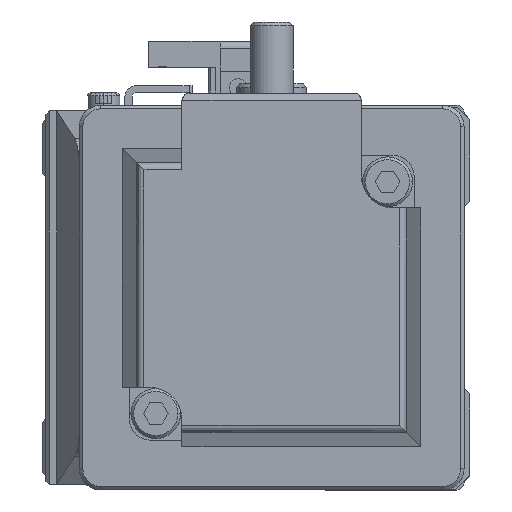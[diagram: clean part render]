
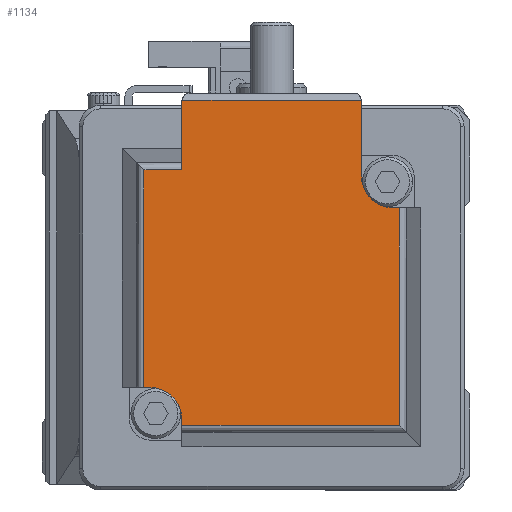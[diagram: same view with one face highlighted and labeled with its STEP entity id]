
A CAD part, left-side view. The second image highlights one B-rep face of the part: STEP entity #1134.
In plain terms, the highlighted planar face has unit normal (-1, 0, 0) as drawn and (0, 1, 0) by its records, which use the part's own axes.
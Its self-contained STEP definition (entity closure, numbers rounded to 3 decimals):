
#1134 = ADVANCED_FACE ( 'NONE', ( #12021 ), #10498, .F. ) ;
#1308 = CARTESIAN_POINT ( 'NONE',  ( -12.6, 100.6, -17.929 ) ) ;
#1461 = EDGE_CURVE ( 'NONE', #11873, #5944, #31729, .T. ) ;
#4011 = VERTEX_POINT ( 'NONE', #13089 ) ;
#4361 = CIRCLE ( 'NONE', #30564, 4.5 ) ;
#4514 = CARTESIAN_POINT ( 'NONE',  ( 12.6, 100.6, 17.929 ) ) ;
#4883 = DIRECTION ( 'NONE',  ( 0., -1., 0. ) ) ;
#5253 = DIRECTION ( 'NONE',  ( 1., 0., 0. ) ) ;
#5413 = EDGE_LOOP ( 'NONE', ( #22507, #31931, #13696, #17268, #14960, #31752, #34373, #24652, #16331, #8727, #9553, #16938 ) ) ;
#5452 = AXIS2_PLACEMENT_3D ( 'NONE', #10380, #4883, #16024 ) ;
#5850 = DIRECTION ( 'NONE',  ( 0., 1., 0. ) ) ;
#5944 = VERTEX_POINT ( 'NONE', #13970 ) ;
#6115 = VERTEX_POINT ( 'NONE', #4514 ) ;
#6201 = LINE ( 'NONE', #11561, #10031 ) ;
#6975 = VECTOR ( 'NONE', #23200, 1000. ) ;
#7044 = CARTESIAN_POINT ( 'NONE',  ( 17.929, 100.6, -17.929 ) ) ;
#7819 = DIRECTION ( 'NONE',  ( 0., 0., 1. ) ) ;
#8418 = EDGE_CURVE ( 'NONE', #6115, #8458, #6201, .T. ) ;
#8458 = VERTEX_POINT ( 'NONE', #16857 ) ;
#8727 = ORIENTED_EDGE ( 'NONE', *, *, #8418, .F. ) ;
#9153 = DIRECTION ( 'NONE',  ( 0., 0., 1. ) ) ;
#9272 = CARTESIAN_POINT ( 'NONE',  ( 17.929, 100.6, -12.6 ) ) ;
#9362 = EDGE_CURVE ( 'NONE', #33467, #23154, #22951, .T. ) ;
#9553 = ORIENTED_EDGE ( 'NONE', *, *, #21321, .F. ) ;
#9690 = CARTESIAN_POINT ( 'NONE',  ( 27.7, 100.6, 25. ) ) ;
#9945 = LINE ( 'NONE', #9272, #6975 ) ;
#10031 = VECTOR ( 'NONE', #33420, 1000. ) ;
#10380 = CARTESIAN_POINT ( 'NONE',  ( 17.929, 100.6, 25. ) ) ;
#10498 = PLANE ( 'NONE',  #5452 ) ;
#10540 = VECTOR ( 'NONE', #21483, 1000. ) ;
#10584 = CARTESIAN_POINT ( 'NONE',  ( 17.929, 100.6, 12.6 ) ) ;
#10624 = EDGE_CURVE ( 'NONE', #5944, #31644, #9945, .T. ) ;
#10778 = DIRECTION ( 'NONE',  ( 0., 0., -1. ) ) ;
#11216 = DIRECTION ( 'NONE',  ( 1., 0., 0. ) ) ;
#11561 = CARTESIAN_POINT ( 'NONE',  ( 17.929, 100.6, 17.929 ) ) ;
#11593 = AXIS2_PLACEMENT_3D ( 'NONE', #22262, #5850, #19652 ) ;
#11873 = VERTEX_POINT ( 'NONE', #7044 ) ;
#12021 = FACE_OUTER_BOUND ( 'NONE', #5413, .T. ) ;
#13089 = CARTESIAN_POINT ( 'NONE',  ( 27.7, 100.6, 12.6 ) ) ;
#13231 = CARTESIAN_POINT ( 'NONE',  ( -12.6, 100.6, -21. ) ) ;
#13407 = VECTOR ( 'NONE', #18760, 1000. ) ;
#13696 = ORIENTED_EDGE ( 'NONE', *, *, #10624, .F. ) ;
#13845 = CARTESIAN_POINT ( 'NONE',  ( 17.929, 100.6, -12.6 ) ) ;
#13970 = CARTESIAN_POINT ( 'NONE',  ( 17.929, 100.6, -12.6 ) ) ;
#14960 = ORIENTED_EDGE ( 'NONE', *, *, #29247, .F. ) ;
#15436 = VECTOR ( 'NONE', #5253, 1000. ) ;
#15649 = VECTOR ( 'NONE', #11216, 1000. ) ;
#16024 = DIRECTION ( 'NONE',  ( 0., 0., -1. ) ) ;
#16098 = CARTESIAN_POINT ( 'NONE',  ( -17.929, 100.6, -12.6 ) ) ;
#16140 = CARTESIAN_POINT ( 'NONE',  ( 17.929, 100.6, -17.929 ) ) ;
#16170 = CIRCLE ( 'NONE', #11593, 4.5 ) ;
#16331 = ORIENTED_EDGE ( 'NONE', *, *, #33767, .F. ) ;
#16857 = CARTESIAN_POINT ( 'NONE',  ( -17.929, 100.6, 17.929 ) ) ;
#16938 = ORIENTED_EDGE ( 'NONE', *, *, #25471, .F. ) ;
#17268 = ORIENTED_EDGE ( 'NONE', *, *, #1461, .F. ) ;
#18116 = VECTOR ( 'NONE', #7819, 1000. ) ;
#18760 = DIRECTION ( 'NONE',  ( 0., 0., 1. ) ) ;
#19524 = EDGE_CURVE ( 'NONE', #4011, #30632, #26418, .T. ) ;
#19652 = DIRECTION ( 'NONE',  ( 0., 0., -1. ) ) ;
#19776 = CARTESIAN_POINT ( 'NONE',  ( 12.6, 100.6, 17.1 ) ) ;
#19999 = LINE ( 'NONE', #9690, #10540 ) ;
#20411 = VERTEX_POINT ( 'NONE', #1308 ) ;
#20707 = LINE ( 'NONE', #29060, #13407 ) ;
#21321 = EDGE_CURVE ( 'NONE', #25563, #6115, #20707, .T. ) ;
#21483 = DIRECTION ( 'NONE',  ( 0., 0., 1. ) ) ;
#21692 = CARTESIAN_POINT ( 'NONE',  ( -17.1, 100.6, -17.1 ) ) ;
#21931 = EDGE_CURVE ( 'NONE', #25712, #23154, #4361, .T. ) ;
#22262 = CARTESIAN_POINT ( 'NONE',  ( 17.1, 100.6, 17.1 ) ) ;
#22507 = ORIENTED_EDGE ( 'NONE', *, *, #19524, .F. ) ;
#22724 = VECTOR ( 'NONE', #9153, 1000. ) ;
#22951 = LINE ( 'NONE', #13845, #15649 ) ;
#23154 = VERTEX_POINT ( 'NONE', #24975 ) ;
#23189 = CARTESIAN_POINT ( 'NONE',  ( 17.1, 100.6, 12.6 ) ) ;
#23200 = DIRECTION ( 'NONE',  ( 1., 0., 0. ) ) ;
#24652 = ORIENTED_EDGE ( 'NONE', *, *, #9362, .F. ) ;
#24975 = CARTESIAN_POINT ( 'NONE',  ( -17.1, 100.6, -12.6 ) ) ;
#25109 = VECTOR ( 'NONE', #32554, 1000. ) ;
#25471 = EDGE_CURVE ( 'NONE', #30632, #25563, #16170, .T. ) ;
#25563 = VERTEX_POINT ( 'NONE', #19776 ) ;
#25712 = VERTEX_POINT ( 'NONE', #34519 ) ;
#25918 = DIRECTION ( 'NONE',  ( 0., 0., -1. ) ) ;
#26418 = LINE ( 'NONE', #10584, #25109 ) ;
#26598 = LINE ( 'NONE', #16140, #15436 ) ;
#27236 = DIRECTION ( 'NONE',  ( 0., -1., 0. ) ) ;
#28126 = CARTESIAN_POINT ( 'NONE',  ( 17.929, 100.6, 25. ) ) ;
#28201 = EDGE_CURVE ( 'NONE', #20411, #25712, #30970, .T. ) ;
#29060 = CARTESIAN_POINT ( 'NONE',  ( 12.6, 100.6, 25. ) ) ;
#29247 = EDGE_CURVE ( 'NONE', #20411, #11873, #26598, .T. ) ;
#30564 = AXIS2_PLACEMENT_3D ( 'NONE', #21692, #27236, #10778 ) ;
#30632 = VERTEX_POINT ( 'NONE', #23189 ) ;
#30970 = LINE ( 'NONE', #13231, #18116 ) ;
#31644 = VERTEX_POINT ( 'NONE', #34049 ) ;
#31729 = LINE ( 'NONE', #28126, #22724 ) ;
#31752 = ORIENTED_EDGE ( 'NONE', *, *, #28201, .T. ) ;
#31931 = ORIENTED_EDGE ( 'NONE', *, *, #33863, .F. ) ;
#32454 = VECTOR ( 'NONE', #25918, 1000. ) ;
#32554 = DIRECTION ( 'NONE',  ( -1., 0., 0. ) ) ;
#33420 = DIRECTION ( 'NONE',  ( -1., 0., 0. ) ) ;
#33467 = VERTEX_POINT ( 'NONE', #16098 ) ;
#33767 = EDGE_CURVE ( 'NONE', #8458, #33467, #34599, .T. ) ;
#33863 = EDGE_CURVE ( 'NONE', #31644, #4011, #19999, .T. ) ;
#33870 = CARTESIAN_POINT ( 'NONE',  ( -17.929, 100.6, 25. ) ) ;
#34049 = CARTESIAN_POINT ( 'NONE',  ( 27.7, 100.6, -12.6 ) ) ;
#34373 = ORIENTED_EDGE ( 'NONE', *, *, #21931, .T. ) ;
#34519 = CARTESIAN_POINT ( 'NONE',  ( -12.6, 100.6, -17.1 ) ) ;
#34599 = LINE ( 'NONE', #33870, #32454 ) ;
